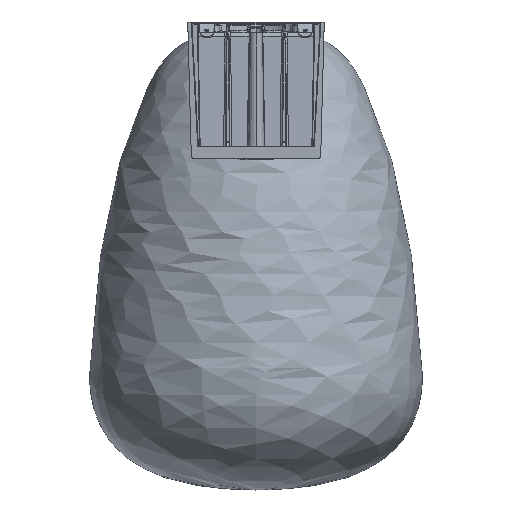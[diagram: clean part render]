
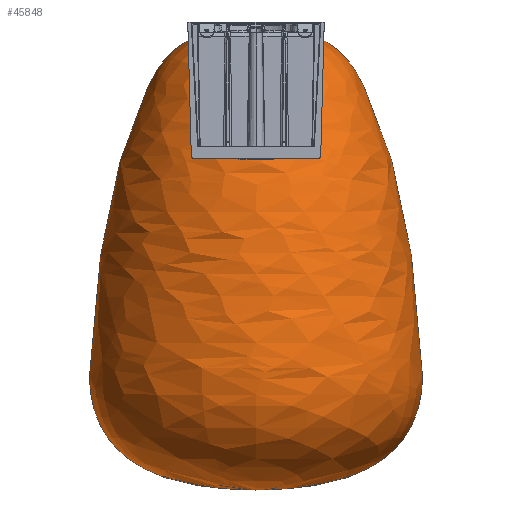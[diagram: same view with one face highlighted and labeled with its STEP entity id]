
A CAD part, top view. The second image highlights one B-rep face of the part: STEP entity #45848.
In plain terms, the highlighted free-form (B-spline) face has degree [3, 3] with [8, 4] control points.
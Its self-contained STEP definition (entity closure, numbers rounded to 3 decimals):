
#687 = CARTESIAN_POINT ( 'NONE',  ( -101.737, 0.158, 29.067 ) ) ;
#943 = CARTESIAN_POINT ( 'NONE',  ( -9.449, 0.158, 29.067 ) ) ;
#1782 = CARTESIAN_POINT ( 'NONE',  ( -124.799, -14.706, 29.067 ) ) ;
#2113 = VERTEX_POINT ( 'NONE', #7833 ) ;
#2277 = CARTESIAN_POINT ( 'NONE',  ( -55.593, -331.309, 29.067 ) ) ;
#4583 = CARTESIAN_POINT ( 'NONE',  ( -124.799, -14.706, 29.067 ) ) ;
#4860 = CARTESIAN_POINT ( 'NONE',  ( -1.492, -3.6, 29.067 ) ) ;
#5536 = CARTESIAN_POINT ( 'NONE',  ( 50.123, -90.765, 29.067 ) ) ;
#5818 = CARTESIAN_POINT ( 'NONE',  ( 60.408, -161.42, 29.067 ) ) ;
#6444 = CARTESIAN_POINT ( 'NONE',  ( -124.799, -14.706, 167.479 ) ) ;
#7833 = CARTESIAN_POINT ( 'NONE',  ( -101.737, 0.158, 29.067 ) ) ;
#9023 = CARTESIAN_POINT ( 'NONE',  ( 13.613, -14.706, 29.067 ) ) ;
#9303 = CARTESIAN_POINT ( 'NONE',  ( -109.694, -3.6, 29.067 ) ) ;
#9570 = CARTESIAN_POINT ( 'NONE',  ( 60.408, -161.42, 29.067 ) ) ;
#9937 = CIRCLE ( 'NONE', #31344, 46.144 ) ;
#9975 = CARTESIAN_POINT ( 'NONE',  ( -9.449, 0.158, 29.067 ) ) ;
#10131 = CARTESIAN_POINT ( 'NONE',  ( -55.593, -331.309, 29.067 ) ) ;
#10609 = CARTESIAN_POINT ( 'NONE',  ( -149.099, -331.309, 216.079 ) ) ;
#10877 = CARTESIAN_POINT ( 'NONE',  ( -171.593, -161.42, 261.069 ) ) ;
#13223 = CARTESIAN_POINT ( 'NONE',  ( 69.87, -277.61, 29.067 ) ) ;
#13368 = EDGE_CURVE ( 'NONE', #2113, #28065, #9937, .T. ) ;
#13480 = CARTESIAN_POINT ( 'NONE',  ( -9.449, 0.158, 121.355 ) ) ;
#14046 = CARTESIAN_POINT ( 'NONE',  ( 50.123, -90.765, 29.067 ) ) ;
#14323 = CARTESIAN_POINT ( 'NONE',  ( -171.593, -161.42, 29.067 ) ) ;
#15085 = CARTESIAN_POINT ( 'NONE',  ( 37.913, -331.309, 29.067 ) ) ;
#15311 = EDGE_CURVE ( 'NONE', #23150, #2113, #28267, .T. ) ;
#17055 = CARTESIAN_POINT ( 'NONE',  ( -9.449, 0.158, 29.067 ) ) ;
#17423 = CARTESIAN_POINT ( 'NONE',  ( -55.593, -331.309, 29.067 ) ) ;
#17695 = CARTESIAN_POINT ( 'NONE',  ( -101.737, 0.158, 121.355 ) ) ;
#21985 = CARTESIAN_POINT ( 'NONE',  ( 69.87, -277.61, 29.067 ) ) ;
#22511 = CARTESIAN_POINT ( 'NONE',  ( -1.492, -3.6, 29.067 ) ) ;
#23150 = VERTEX_POINT ( 'NONE', #54079 ) ;
#26058 = CARTESIAN_POINT ( 'NONE',  ( -109.694, -3.6, 137.269 ) ) ;
#26275 = ORIENTED_EDGE ( 'NONE', *, *, #13368, .F. ) ;
#26345 = CARTESIAN_POINT ( 'NONE',  ( 60.408, -161.42, 261.069 ) ) ;
#26743 = CARTESIAN_POINT ( 'NONE',  ( 13.613, -14.706, 29.067 ) ) ;
#27161 = CARTESIAN_POINT ( 'NONE',  ( -161.308, -90.765, 29.067 ) ) ;
#27640 = CARTESIAN_POINT ( 'NONE',  ( -181.055, -277.61, 279.993 ) ) ;
#27914 = CARTESIAN_POINT ( 'NONE',  ( 50.123, -90.765, 240.499 ) ) ;
#28065 = VERTEX_POINT ( 'NONE', #17055 ) ;
#28267 = B_SPLINE_CURVE_WITH_KNOTS ( 'NONE', 3,
 ( #10131, #48203, #52398, #14323, #27161, #1782, #44041, #39907 ),
 .UNSPECIFIED., .F., .F.,
 ( 4, 1, 1, 1, 1, 4 ),
 ( 0.125, 0.303, 0.379, 0.826, 0.893, 1. ),
 .UNSPECIFIED. ) ;
#28513 = EDGE_CURVE ( 'NONE', #23150, #28065, #38688, .T. ) ;
#29819 = EDGE_LOOP ( 'NONE', ( #38700, #43787, #26275 ) ) ;
#30886 = DIRECTION ( 'NONE',  ( 0., 1., 0. ) ) ;
#31344 = AXIS2_PLACEMENT_3D ( 'NONE', #51374, #30886, #46647 ) ;
#31477 = CARTESIAN_POINT ( 'NONE',  ( 37.913, -331.309, 29.067 ) ) ;
#34385 = CARTESIAN_POINT ( 'NONE',  ( 37.913, -331.309, 216.079 ) ) ;
#38688 = B_SPLINE_CURVE_WITH_KNOTS ( 'NONE', 3,
 ( #51688, #31477, #21985, #5818, #5536, #26743, #22511, #9975 ),
 .UNSPECIFIED., .F., .F.,
 ( 4, 1, 1, 1, 1, 4 ),
 ( 0.125, 0.303, 0.379, 0.826, 0.893, 1. ),
 .UNSPECIFIED. ) ;
#38700 = ORIENTED_EDGE ( 'NONE', *, *, #15311, .F. ) ;
#38821 = CARTESIAN_POINT ( 'NONE',  ( -171.593, -161.42, 29.067 ) ) ;
#39907 = CARTESIAN_POINT ( 'NONE',  ( -101.737, 0.158, 29.067 ) ) ;
#42981 = CARTESIAN_POINT ( 'NONE',  ( -1.492, -3.6, 137.269 ) ) ;
#43232 = CARTESIAN_POINT ( 'NONE',  ( 13.613, -14.706, 167.479 ) ) ;
#43503 = FACE_OUTER_BOUND ( 'NONE', #29819, .T. ) ;
#43787 = ORIENTED_EDGE ( 'NONE', *, *, #28513, .T. ) ;
#44041 = CARTESIAN_POINT ( 'NONE',  ( -109.694, -3.6, 29.067 ) ) ;
#44523 = CARTESIAN_POINT ( 'NONE',  ( -161.308, -90.765, 240.499 ) ) ;
#45848 = ADVANCED_FACE ( 'NONE', ( #43503 ), #48350, .F. ) ;
#46647 = DIRECTION ( 'NONE',  ( -1., 0., 0. ) ) ;
#47113 = CARTESIAN_POINT ( 'NONE',  ( -181.055, -277.61, 29.067 ) ) ;
#47664 = CARTESIAN_POINT ( 'NONE',  ( -55.593, -331.309, 29.067 ) ) ;
#48203 = CARTESIAN_POINT ( 'NONE',  ( -149.099, -331.309, 29.067 ) ) ;
#48350 =( BOUNDED_SURFACE ( )  B_SPLINE_SURFACE ( 3, 3, ( 
 ( #2277, #52116, #17423, #47664 ),
 ( #51839, #10609, #34385, #15085 ),
 ( #47113, #27640, #48966, #13223 ),
 ( #38821, #10877, #26345, #9570 ),
 ( #51303, #44523, #27914, #14046 ),
 ( #4583, #6444, #43232, #9023 ),
 ( #9303, #26058, #42981, #4860 ),
 ( #687, #17695, #13480, #943 ) ),
 .UNSPECIFIED., .F., .F., .T. ) 
 B_SPLINE_SURFACE_WITH_KNOTS ( ( 4, 1, 1, 1, 1, 4 ),
 ( 4, 4 ),
 ( 0.125, 0.303, 0.379, 0.826, 0.893, 1. ),
 ( 0., 1. ),
 .UNSPECIFIED. ) 
 GEOMETRIC_REPRESENTATION_ITEM ( )  RATIONAL_B_SPLINE_SURFACE ( (
 ( 1., 0.333, 0.333, 1.),
 ( 1., 0.333, 0.333, 1.),
 ( 1., 0.333, 0.333, 1.),
 ( 1., 0.333, 0.333, 1.),
 ( 1., 0.333, 0.333, 1.),
 ( 1., 0.333, 0.333, 1.),
 ( 1., 0.333, 0.333, 1.),
 ( 1., 0.333, 0.333, 1.) ) ) 
 REPRESENTATION_ITEM ( '' )  SURFACE ( )  );
#48966 = CARTESIAN_POINT ( 'NONE',  ( 69.87, -277.61, 279.993 ) ) ;
#51303 = CARTESIAN_POINT ( 'NONE',  ( -161.308, -90.765, 29.067 ) ) ;
#51374 = CARTESIAN_POINT ( 'NONE',  ( -55.593, 0.158, 29.067 ) ) ;
#51688 = CARTESIAN_POINT ( 'NONE',  ( -55.593, -331.309, 29.067 ) ) ;
#51839 = CARTESIAN_POINT ( 'NONE',  ( -149.099, -331.309, 29.067 ) ) ;
#52116 = CARTESIAN_POINT ( 'NONE',  ( -55.593, -331.309, 29.067 ) ) ;
#52398 = CARTESIAN_POINT ( 'NONE',  ( -181.055, -277.61, 29.067 ) ) ;
#54079 = CARTESIAN_POINT ( 'NONE',  ( -55.593, -331.309, 29.067 ) ) ;
